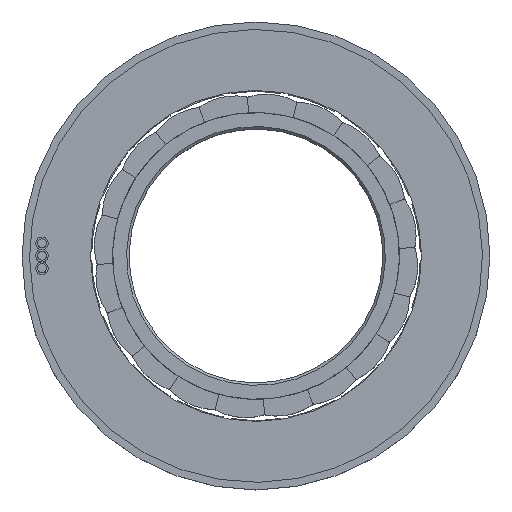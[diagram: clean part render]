
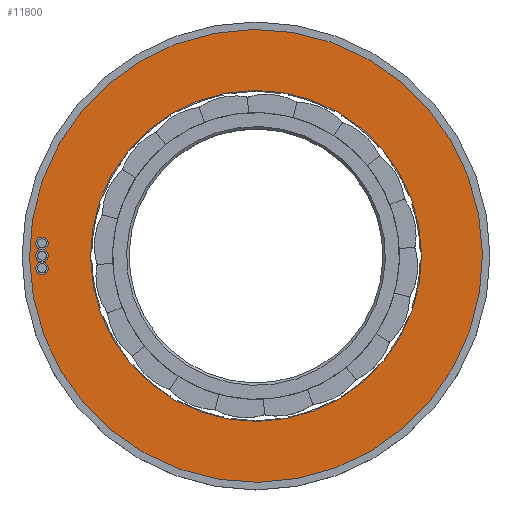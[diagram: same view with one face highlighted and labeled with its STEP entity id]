
A CAD part, top view. The second image highlights one B-rep face of the part: STEP entity #11800.
In plain terms, the highlighted planar face has unit normal (0, 0, 1).
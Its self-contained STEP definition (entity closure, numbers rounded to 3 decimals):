
#1882 = DIRECTION ( 'NONE',  ( 0.872, -0.49, 0. ) ) ;
#4097 = FACE_OUTER_BOUND ( 'NONE', #15856, .T. ) ;
#6699 = DIRECTION ( 'NONE',  ( 0., 0., 1. ) ) ;
#9800 = CARTESIAN_POINT ( 'NONE',  ( 0., 0., 16. ) ) ;
#10364 = ORIENTED_EDGE ( 'NONE', *, *, #20808, .T. ) ;
#11489 = EDGE_LOOP ( 'NONE', ( #23755 ) ) ;
#11800 = ADVANCED_FACE ( 'NONE', ( #4097, #28146 ), #25323, .T. ) ;
#12254 = CARTESIAN_POINT ( 'NONE',  ( 39.663, -22.296, 16. ) ) ;
#12599 = DIRECTION ( 'NONE',  ( 0., 0., 1. ) ) ;
#15550 = AXIS2_PLACEMENT_3D ( 'NONE', #20814, #6699, #1882 ) ;
#15771 = AXIS2_PLACEMENT_3D ( 'NONE', #9800, #19266, #28750 ) ;
#15856 = EDGE_LOOP ( 'NONE', ( #10364 ) ) ;
#16744 = CARTESIAN_POINT ( 'NONE',  ( 28.984, -16.293, 16. ) ) ;
#19246 = VERTEX_POINT ( 'NONE', #16744 ) ;
#19266 = DIRECTION ( 'NONE',  ( 0., 0., 1. ) ) ;
#20216 = CIRCLE ( 'NONE', #15771, 45.5 ) ;
#20808 = EDGE_CURVE ( 'NONE', #23718, #23718, #20216, .T. ) ;
#20814 = CARTESIAN_POINT ( 'NONE',  ( 0., 0., 16. ) ) ;
#21950 = CIRCLE ( 'NONE', #30461, 33.25 ) ;
#23718 = VERTEX_POINT ( 'NONE', #12254 ) ;
#23725 = CARTESIAN_POINT ( 'NONE',  ( 0., 0., 16. ) ) ;
#23755 = ORIENTED_EDGE ( 'NONE', *, *, #28457, .F. ) ;
#25323 = PLANE ( 'NONE',  #15550 ) ;
#26549 = DIRECTION ( 'NONE',  ( 0.872, -0.49, 0. ) ) ;
#28146 = FACE_BOUND ( 'NONE', #11489, .T. ) ;
#28457 = EDGE_CURVE ( 'NONE', #19246, #19246, #21950, .T. ) ;
#28750 = DIRECTION ( 'NONE',  ( 0.872, -0.49, 0. ) ) ;
#30461 = AXIS2_PLACEMENT_3D ( 'NONE', #23725, #12599, #26549 ) ;
